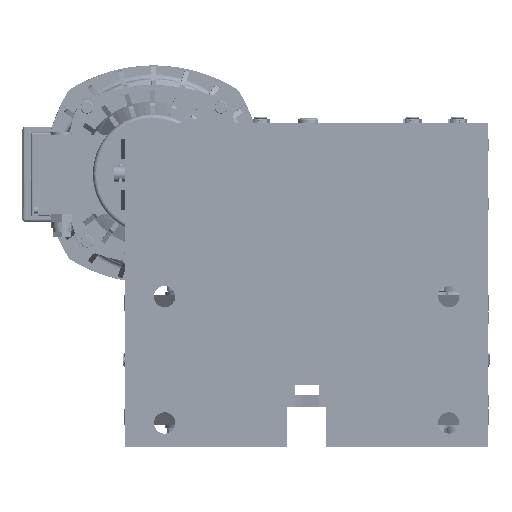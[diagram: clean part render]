
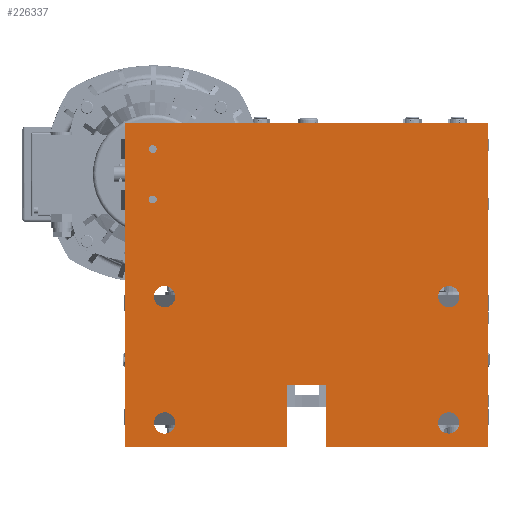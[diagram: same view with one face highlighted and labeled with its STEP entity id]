
A CAD part, front view. The second image highlights one B-rep face of the part: STEP entity #226337.
In plain terms, the highlighted planar face has unit normal (0, -1, 0).
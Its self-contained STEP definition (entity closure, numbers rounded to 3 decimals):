
#224836=DIRECTION('',(0.,0.,-1.));
#224837=VECTOR('',#224836,410.);
#224838=CARTESIAN_POINT('',(-77.977,143.385,218.));
#224839=LINE('',#224838,#224837);
#224843=DIRECTION('',(-1.,0.,0.));
#224844=VECTOR('',#224843,460.);
#224845=CARTESIAN_POINT('',(382.023,143.385,218.));
#224846=LINE('',#224845,#224844);
#224857=DIRECTION('',(0.,0.,1.));
#224858=VECTOR('',#224857,410.);
#224859=CARTESIAN_POINT('',(382.023,143.385,-192.));
#224860=LINE('',#224859,#224858);
#224871=DIRECTION('',(1.,0.,0.));
#224872=VECTOR('',#224871,205.);
#224873=CARTESIAN_POINT('',(177.023,143.385,-192.));
#224874=LINE('',#224873,#224872);
#224885=DIRECTION('',(0.,0.,-1.));
#224886=VECTOR('',#224885,77.998);
#224887=CARTESIAN_POINT('',(177.023,143.385,
-114.002));
#224888=LINE('',#224887,#224886);
#224899=DIRECTION('',(1.,0.,0.));
#224900=VECTOR('',#224899,50.);
#224901=CARTESIAN_POINT('',(127.023,143.385,
-114.002));
#224902=LINE('',#224901,#224900);
#224913=DIRECTION('',(0.,0.,1.));
#224914=VECTOR('',#224913,77.998);
#224915=CARTESIAN_POINT('',(127.023,143.385,-192.));
#224916=LINE('',#224915,#224914);
#224934=DIRECTION('',(1.,0.,0.));
#224935=VECTOR('',#224934,205.);
#224936=CARTESIAN_POINT('',(-77.977,143.385,-192.));
#224937=LINE('',#224936,#224935);
#224948=CARTESIAN_POINT('',(-42.977,143.385,121.));
#224949=DIRECTION('',(0.,-1.,0.));
#224950=DIRECTION('',(1.,0.,0.));
#224951=AXIS2_PLACEMENT_3D('',#224948,#224949,#224950);
#224956=CARTESIAN_POINT('',(-42.977,143.385,121.));
#224957=DIRECTION('',(0.,-1.,0.));
#224958=DIRECTION('',(-1.,0.,0.));
#224959=AXIS2_PLACEMENT_3D('',#224956,#224957,#224958);
#224964=CARTESIAN_POINT('',(-42.977,143.385,185.));
#224965=DIRECTION('',(0.,-1.,0.));
#224966=DIRECTION('',(1.,0.,0.));
#224967=AXIS2_PLACEMENT_3D('',#224964,#224965,#224966);
#224972=CARTESIAN_POINT('',(-42.977,143.385,185.));
#224973=DIRECTION('',(0.,-1.,0.));
#224974=DIRECTION('',(-1.,0.,0.));
#224975=AXIS2_PLACEMENT_3D('',#224972,#224973,#224974);
#224980=CARTESIAN_POINT('',(-27.977,143.385,-2.));
#224981=DIRECTION('',(0.,-1.,0.));
#224982=DIRECTION('',(-1.,0.,0.));
#224983=AXIS2_PLACEMENT_3D('',#224980,#224981,#224982);
#224988=CARTESIAN_POINT('',(-27.977,143.385,-2.));
#224989=DIRECTION('',(0.,-1.,0.));
#224990=DIRECTION('',(1.,0.,0.));
#224991=AXIS2_PLACEMENT_3D('',#224988,#224989,#224990);
#224996=CARTESIAN_POINT('',(-27.977,143.385,-162.));
#224997=DIRECTION('',(0.,-1.,0.));
#224998=DIRECTION('',(-1.,0.,0.));
#224999=AXIS2_PLACEMENT_3D('',#224996,#224997,#224998);
#225004=CARTESIAN_POINT('',(-27.977,143.385,-162.));
#225005=DIRECTION('',(0.,-1.,0.));
#225006=DIRECTION('',(1.,0.,0.));
#225007=AXIS2_PLACEMENT_3D('',#225004,#225005,#225006);
#225012=CARTESIAN_POINT('',(332.023,143.385,-2.));
#225013=DIRECTION('',(0.,-1.,0.));
#225014=DIRECTION('',(-1.,0.,0.));
#225015=AXIS2_PLACEMENT_3D('',#225012,#225013,#225014);
#225020=CARTESIAN_POINT('',(332.023,143.385,-2.));
#225021=DIRECTION('',(0.,-1.,0.));
#225022=DIRECTION('',(1.,0.,0.));
#225023=AXIS2_PLACEMENT_3D('',#225020,#225021,#225022);
#225028=CARTESIAN_POINT('',(332.023,143.385,-162.));
#225029=DIRECTION('',(0.,-1.,0.));
#225030=DIRECTION('',(-1.,0.,0.));
#225031=AXIS2_PLACEMENT_3D('',#225028,#225029,#225030);
#225036=CARTESIAN_POINT('',(332.023,143.385,-162.));
#225037=DIRECTION('',(0.,-1.,0.));
#225038=DIRECTION('',(1.,0.,0.));
#225039=AXIS2_PLACEMENT_3D('',#225036,#225037,#225038);
#225756=CARTESIAN_POINT('',(-77.977,143.385,218.));
#225757=VERTEX_POINT('',#225756);
#225758=CARTESIAN_POINT('',(-77.977,143.385,-192.));
#225759=VERTEX_POINT('',#225758);
#225760=CARTESIAN_POINT('',(382.023,143.385,218.));
#225761=VERTEX_POINT('',#225760);
#225762=CARTESIAN_POINT('',(382.023,143.385,-192.));
#225763=VERTEX_POINT('',#225762);
#225764=CARTESIAN_POINT('',(177.023,143.385,-192.));
#225765=VERTEX_POINT('',#225764);
#225766=CARTESIAN_POINT('',(177.023,143.385,
-114.002));
#225767=VERTEX_POINT('',#225766);
#225768=CARTESIAN_POINT('',(127.023,143.385,
-114.002));
#225769=VERTEX_POINT('',#225768);
#225770=CARTESIAN_POINT('',(127.023,143.385,-192.));
#225771=VERTEX_POINT('',#225770);
#225772=CARTESIAN_POINT('',(-37.977,143.385,121.));
#225773=CARTESIAN_POINT('',(-47.977,143.385,121.));
#225774=VERTEX_POINT('',#225772);
#225775=VERTEX_POINT('',#225773);
#225776=CARTESIAN_POINT('',(-37.977,143.385,185.));
#225777=CARTESIAN_POINT('',(-47.977,143.385,185.));
#225778=VERTEX_POINT('',#225776);
#225779=VERTEX_POINT('',#225777);
#225780=CARTESIAN_POINT('',(-41.477,143.385,-2.));
#225781=CARTESIAN_POINT('',(-14.477,143.385,
-2.));
#225782=VERTEX_POINT('',#225780);
#225783=VERTEX_POINT('',#225781);
#225784=CARTESIAN_POINT('',(-41.477,143.385,-162.));
#225785=CARTESIAN_POINT('',(-14.477,143.385,-162.));
#225786=VERTEX_POINT('',#225784);
#225787=VERTEX_POINT('',#225785);
#225788=CARTESIAN_POINT('',(318.523,143.385,-2.));
#225789=CARTESIAN_POINT('',(345.523,143.385,-2.));
#225790=VERTEX_POINT('',#225788);
#225791=VERTEX_POINT('',#225789);
#225792=CARTESIAN_POINT('',(318.523,143.385,-162.));
#225793=CARTESIAN_POINT('',(345.523,143.385,-162.));
#225794=VERTEX_POINT('',#225792);
#225795=VERTEX_POINT('',#225793);
#226286=CARTESIAN_POINT('',(152.023,143.385,13.));
#226287=DIRECTION('',(0.,-1.,0.));
#226288=DIRECTION('',(1.,0.,0.));
#226289=AXIS2_PLACEMENT_3D('',#226286,#226287,#226288);
#226290=PLANE('',#226289);
#226291=ORIENTED_EDGE('',*,*,#226253,.F.);
#226292=ORIENTED_EDGE('',*,*,#226273,.F.);
#226293=ORIENTED_EDGE('',*,*,#226126,.F.);
#226294=ORIENTED_EDGE('',*,*,#226148,.F.);
#226295=ORIENTED_EDGE('',*,*,#226169,.F.);
#226296=ORIENTED_EDGE('',*,*,#226190,.F.);
#226297=ORIENTED_EDGE('',*,*,#226211,.F.);
#226298=ORIENTED_EDGE('',*,*,#226232,.F.);
#226299=EDGE_LOOP('',(#226291,#226292,#226293,#226294,#226295,#226296,#226297,
#226298));
#226300=FACE_OUTER_BOUND('',#226299,.F.);
#226302=ORIENTED_EDGE('',*,*,#226301,.T.);
#226304=ORIENTED_EDGE('',*,*,#226303,.T.);
#226305=EDGE_LOOP('',(#226302,#226304));
#226306=FACE_BOUND('',#226305,.F.);
#226308=ORIENTED_EDGE('',*,*,#226307,.T.);
#226310=ORIENTED_EDGE('',*,*,#226309,.T.);
#226311=EDGE_LOOP('',(#226308,#226310));
#226312=FACE_BOUND('',#226311,.F.);
#226314=ORIENTED_EDGE('',*,*,#226313,.T.);
#226316=ORIENTED_EDGE('',*,*,#226315,.T.);
#226317=EDGE_LOOP('',(#226314,#226316));
#226318=FACE_BOUND('',#226317,.F.);
#226320=ORIENTED_EDGE('',*,*,#226319,.T.);
#226322=ORIENTED_EDGE('',*,*,#226321,.T.);
#226323=EDGE_LOOP('',(#226320,#226322));
#226324=FACE_BOUND('',#226323,.F.);
#226326=ORIENTED_EDGE('',*,*,#226325,.T.);
#226328=ORIENTED_EDGE('',*,*,#226327,.T.);
#226329=EDGE_LOOP('',(#226326,#226328));
#226330=FACE_BOUND('',#226329,.F.);
#226332=ORIENTED_EDGE('',*,*,#226331,.T.);
#226334=ORIENTED_EDGE('',*,*,#226333,.T.);
#226335=EDGE_LOOP('',(#226332,#226334));
#226336=FACE_BOUND('',#226335,.F.);
#226337=ADVANCED_FACE('',(#226300,#226306,#226312,#226318,#226324,#226330,
#226336),#226290,.T.);
#224952=CIRCLE('',#224951,5.);
#224960=CIRCLE('',#224959,5.);
#224968=CIRCLE('',#224967,5.);
#224976=CIRCLE('',#224975,5.);
#224984=CIRCLE('',#224983,13.5);
#224992=CIRCLE('',#224991,13.5);
#225000=CIRCLE('',#224999,13.5);
#225008=CIRCLE('',#225007,13.5);
#225016=CIRCLE('',#225015,13.5);
#225024=CIRCLE('',#225023,13.5);
#225032=CIRCLE('',#225031,13.5);
#225040=CIRCLE('',#225039,13.5);
#226126=EDGE_CURVE('',#225757,#225759,#224839,.T.);
#226148=EDGE_CURVE('',#225761,#225757,#224846,.T.);
#226169=EDGE_CURVE('',#225763,#225761,#224860,.T.);
#226190=EDGE_CURVE('',#225765,#225763,#224874,.T.);
#226211=EDGE_CURVE('',#225767,#225765,#224888,.T.);
#226232=EDGE_CURVE('',#225769,#225767,#224902,.T.);
#226253=EDGE_CURVE('',#225771,#225769,#224916,.T.);
#226273=EDGE_CURVE('',#225759,#225771,#224937,.T.);
#226301=EDGE_CURVE('',#225774,#225775,#224952,.T.);
#226303=EDGE_CURVE('',#225775,#225774,#224960,.T.);
#226307=EDGE_CURVE('',#225778,#225779,#224968,.T.);
#226309=EDGE_CURVE('',#225779,#225778,#224976,.T.);
#226313=EDGE_CURVE('',#225782,#225783,#224984,.T.);
#226315=EDGE_CURVE('',#225783,#225782,#224992,.T.);
#226319=EDGE_CURVE('',#225786,#225787,#225000,.T.);
#226321=EDGE_CURVE('',#225787,#225786,#225008,.T.);
#226325=EDGE_CURVE('',#225790,#225791,#225016,.T.);
#226327=EDGE_CURVE('',#225791,#225790,#225024,.T.);
#226331=EDGE_CURVE('',#225794,#225795,#225032,.T.);
#226333=EDGE_CURVE('',#225795,#225794,#225040,.T.);
